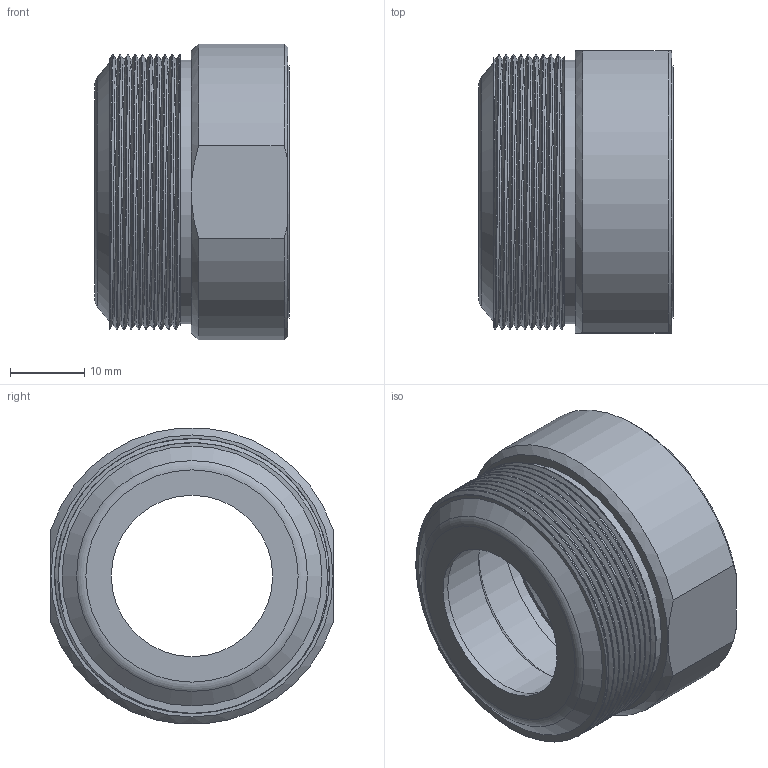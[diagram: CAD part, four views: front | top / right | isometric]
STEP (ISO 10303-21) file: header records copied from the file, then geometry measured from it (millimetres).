
FILE_DESCRIPTION (( 'STEP AP203' ), '1' );
FILE_NAME ('SH.IR6.A-»¤Ì×L-20250519.STEP', '2025-05-21T06:32:02', ( '' ), ( '' ), 'SwSTEP 2.0', 'SolidWorks 2023', '' );
FILE_SCHEMA (( 'CONFIG_CONTROL_DESIGN' ));
Length unit declared in the file: millimetre
Products named in the file (1): SH.IR6.A-护套L-20250519
Bounding box: 26.2 x 38 x 39.86 mm (x, y, z)
Volume: 11642.5 mm3; surface area: 8288.5 mm2
Topology: 1 solids, 1 shells, 37 faces, 75 edges, 49 vertices
Faces by surface type: plane 13, cylinder 11, cone 6, bspline 6, torus 1
Full cylindrical faces by diameter (mm): 21.72 x1, 25 x1, 31 x1, 32.5 x2, 34 x1, 35.5 x1
Entity records: 4255 total; most frequent: CARTESIAN_POINT 3496, DIRECTION 130, ORIENTED_EDGE 128, EDGE_CURVE 64, AXIS2_PLACEMENT_3D 62, EDGE_LOOP 58, VERTEX_POINT 48, FACE_OUTER_BOUND 45
